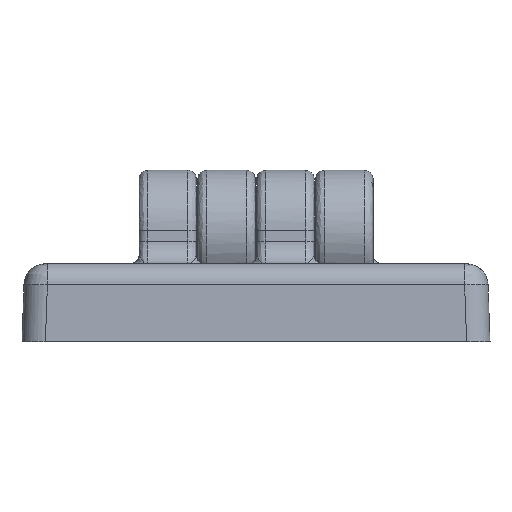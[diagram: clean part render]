
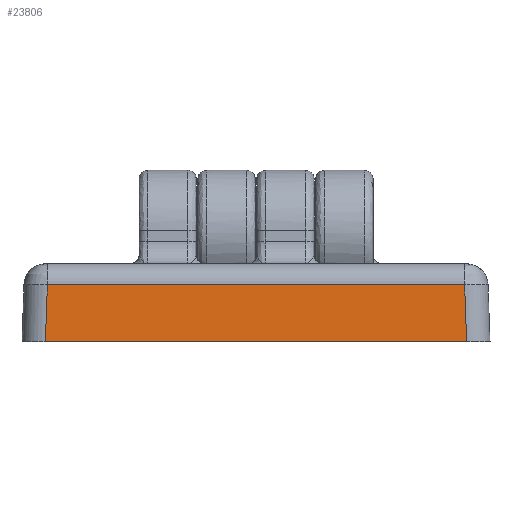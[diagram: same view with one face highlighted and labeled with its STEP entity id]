
A CAD part, left-side view. The second image highlights one B-rep face of the part: STEP entity #23806.
In plain terms, the highlighted planar face has unit normal (-0.999, 0, 0.035).
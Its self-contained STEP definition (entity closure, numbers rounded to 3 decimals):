
#346 = LINE ( 'NONE', #17830, #21506 ) ;
#998 = DIRECTION ( 'NONE',  ( 0.035, -0.035, 0.999 ) ) ;
#1953 = PLANE ( 'NONE',  #30701 ) ;
#3015 = LINE ( 'NONE', #14039, #28419 ) ;
#3287 = CARTESIAN_POINT ( 'NONE',  ( -40.509, 51.179, 0. ) ) ;
#5382 = CARTESIAN_POINT ( 'NONE',  ( -40.254, -2.569, 7.298 ) ) ;
#6366 = DIRECTION ( 'NONE',  ( 0., -1., 0. ) ) ;
#9385 = CARTESIAN_POINT ( 'NONE',  ( -40.509, -2.824, 0. ) ) ;
#11647 = VERTEX_POINT ( 'NONE', #26684 ) ;
#14039 = CARTESIAN_POINT ( 'NONE',  ( -40.382, -2.697, 3.649 ) ) ;
#14691 = VERTEX_POINT ( 'NONE', #3287 ) ;
#15268 = VERTEX_POINT ( 'NONE', #9385 ) ;
#17830 = CARTESIAN_POINT ( 'NONE',  ( -40.382, 51.052, 3.649 ) ) ;
#18566 = EDGE_LOOP ( 'NONE', ( #29795, #27805, #34211, #25588 ) ) ;
#19505 = LINE ( 'NONE', #43374, #25046 ) ;
#20376 = EDGE_CURVE ( 'NONE', #15268, #41290, #3015, .T. ) ;
#21506 = VECTOR ( 'NONE', #998, 1000. ) ;
#23084 = EDGE_CURVE ( 'NONE', #14691, #11647, #346, .T. ) ;
#23190 = LINE ( 'NONE', #39782, #38368 ) ;
#23806 = ADVANCED_FACE ( 'NONE', ( #42225 ), #1953, .T. ) ;
#25046 = VECTOR ( 'NONE', #32985, 1000. ) ;
#25588 = ORIENTED_EDGE ( 'NONE', *, *, #27037, .T. ) ;
#25846 = DIRECTION ( 'NONE',  ( 0., 1., 0. ) ) ;
#26684 = CARTESIAN_POINT ( 'NONE',  ( -40.254, 50.925, 7.298 ) ) ;
#27037 = EDGE_CURVE ( 'NONE', #14691, #15268, #19505, .T. ) ;
#27333 = DIRECTION ( 'NONE',  ( 0.035, 0.035, 0.999 ) ) ;
#27805 = ORIENTED_EDGE ( 'NONE', *, *, #40087, .F. ) ;
#28419 = VECTOR ( 'NONE', #27333, 1000. ) ;
#29795 = ORIENTED_EDGE ( 'NONE', *, *, #20376, .T. ) ;
#30701 = AXIS2_PLACEMENT_3D ( 'NONE', #39123, #38904, #25846 ) ;
#32985 = DIRECTION ( 'NONE',  ( 0., -1., 0. ) ) ;
#34211 = ORIENTED_EDGE ( 'NONE', *, *, #23084, .F. ) ;
#38368 = VECTOR ( 'NONE', #6366, 1000. ) ;
#38904 = DIRECTION ( 'NONE',  ( -0.999, 0., 0.035 ) ) ;
#39123 = CARTESIAN_POINT ( 'NONE',  ( -40.382, 24.178, 3.649 ) ) ;
#39782 = CARTESIAN_POINT ( 'NONE',  ( -40.254, 24.178, 7.298 ) ) ;
#40087 = EDGE_CURVE ( 'NONE', #11647, #41290, #23190, .T. ) ;
#41290 = VERTEX_POINT ( 'NONE', #5382 ) ;
#42225 = FACE_OUTER_BOUND ( 'NONE', #18566, .T. ) ;
#43374 = CARTESIAN_POINT ( 'NONE',  ( -40.509, 24.178, 0. ) ) ;
